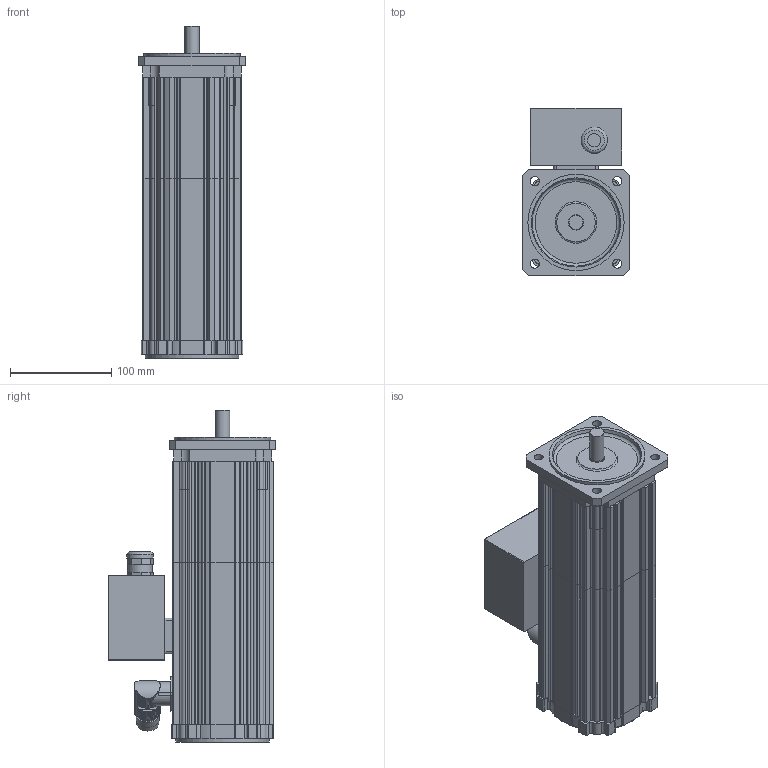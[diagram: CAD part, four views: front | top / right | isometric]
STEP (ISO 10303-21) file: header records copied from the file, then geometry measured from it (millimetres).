
FILE_DESCRIPTION(/* description */ (''),/* implementation_level */ '2;1');
FILE_NAME(/* name */ 'KSA4412_Ix',/* time_stamp */ '2009-02-26T13:51:17+01:00',/* author */ (''),/* organization */ (''),/* preprocessor_version */ 'ST-DEVELOPER v8',/* originating_system */ 'UNIGRAPHICS SOLUTIONS - UNIGRAPHICS 18.0',/* authorisation */ '');
FILE_SCHEMA (('AUTOMOTIVE_DESIGN { 1 2 10303 214 0 1 1 1 }'));
Length unit declared in the file: millimetre
Products named in the file (7): 0280391350_0; Lagersch4AS_0; Winkelflanschdose_0; Lagersch4BS_0; 089105X_0; Klemmenkasten_0; KSA444_I27_0
Assembly tree (6 placements, depth 3):
  KSA444_I27_0
    089105X_0
    Lagersch4BS_0
    Klemmenkasten_0
      0280391350_0
    Winkelflanschdose_0
    Lagersch4AS_0
Bounding box: 105 x 165.35 x 327.5 mm (x, y, z)
Volume: 1514019.9 mm3; surface area: 407173 mm2
Topology: 7 solids, 7 shells, 748 faces, 2115 edges, 1399 vertices
Faces by surface type: cylinder 424, plane 290, torus 12, cone 10, bspline 8, sphere 4
Full cylindrical faces by diameter (mm): 9 x4, 13 x1, 14 x1, 15 x1, 16 x1, 18 x1, 20 x2, 21 x1, 21.5 x1, 23 x2, 24 x1, 26 x1, 89.6 x2, 91 x1, 95 x1
Entity records: 24949 total; most frequent: CARTESIAN_POINT 5174, DIRECTION 4142, ORIENTED_EDGE 4138, EDGE_CURVE 2069, AXIS2_PLACEMENT_3D 1522, VERTEX_POINT 1388, LINE 1098, VECTOR 1098
